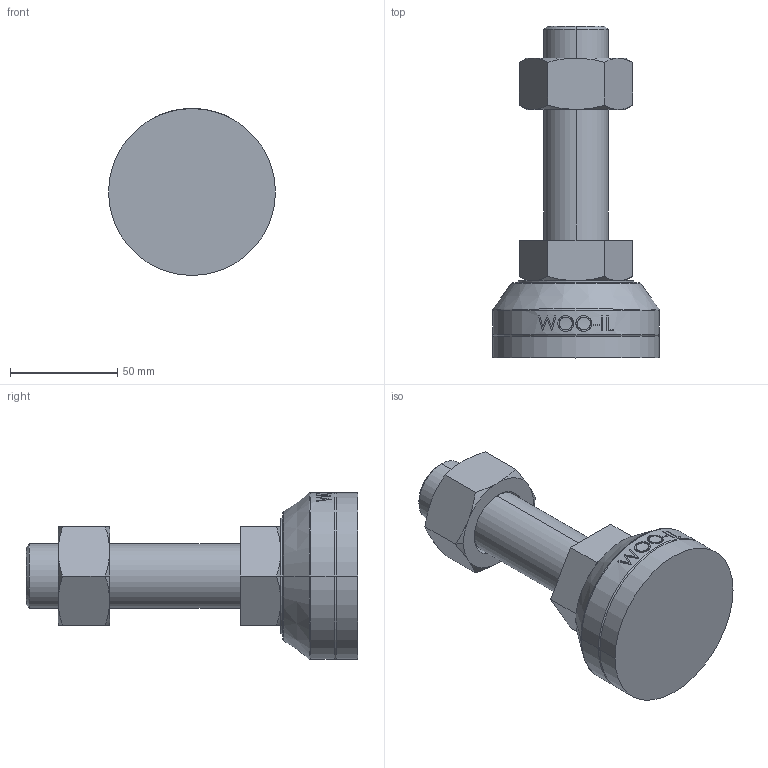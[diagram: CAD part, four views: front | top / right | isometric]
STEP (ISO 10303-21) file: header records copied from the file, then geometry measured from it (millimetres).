
FILE_DESCRIPTION (( 'STEP AP214' ), '1' );
FILE_NAME ('MFR78-M30-100.step', '2021-01-13T05:41:19', ( '' ), ( '' ), 'SwSTEP 2.0', 'SolidWorks 2019', '' );
FILE_SCHEMA (( 'AUTOMOTIVE_DESIGN' ));
Length unit declared in the file: millimetre
Products named in the file (2): MFR78-M30-100
Bounding box: 78 x 155 x 78 mm (x, y, z)
Volume: 288756 mm3; surface area: 50109.2 mm2
Topology: 4 solids, 4 shells, 118 faces, 283 edges, 183 vertices
Faces by surface type: plane 49, cone 29, cylinder 18, bspline 16, torus 6
Entity records: 4990 total; most frequent: CARTESIAN_POINT 2312, ORIENTED_EDGE 566, DIRECTION 492, EDGE_CURVE 283, AXIS2_PLACEMENT_3D 189, VERTEX_POINT 183, EDGE_LOOP 130, ADVANCED_FACE 118
